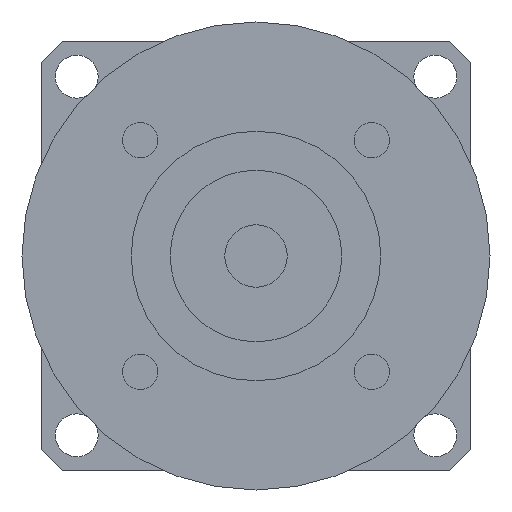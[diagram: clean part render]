
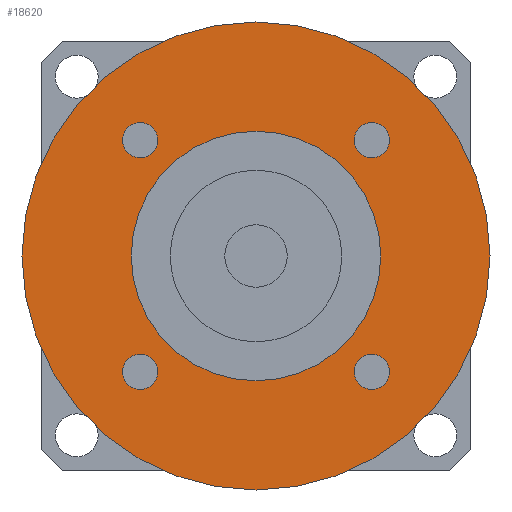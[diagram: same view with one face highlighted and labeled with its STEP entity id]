
A CAD part, left-side view. The second image highlights one B-rep face of the part: STEP entity #18620.
In plain terms, the highlighted planar face has unit normal (-1, 0, 0) as drawn and (0, 0, -1) by its records, which use the part's own axes.
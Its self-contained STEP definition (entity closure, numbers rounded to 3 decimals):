
#11050=CARTESIAN_POINT('',(0.,0.,
-58.));
#11060=DIRECTION('',(0.,0.,1.));
#11070=DIRECTION('',(0.,-1.,0.));
#11080=AXIS2_PLACEMENT_3D('',#11050,#11060,#11070);
#11090=CIRCLE('',#11080,16.);
#11100=CARTESIAN_POINT('',(0.,-16.,-58.));
#11110=VERTEX_POINT('',#11100);
#11120=CARTESIAN_POINT('',(16.,0.,-58.));
#11130=VERTEX_POINT('',#11120);
#11140=EDGE_CURVE('',#11110,#11130,#11090,.T.);
#11370=CARTESIAN_POINT('',(-16.,0.,-58.));
#11380=VERTEX_POINT('',#11370);
#11410=EDGE_CURVE('',#11380,#11110,#11090,.T.);
#12740=CARTESIAN_POINT('',(-12.599,-14.849,-58.));
#12750=VERTEX_POINT('',#12740);
#12930=CARTESIAN_POINT('',(-17.099,-14.849,-58.));
#12940=VERTEX_POINT('',#12930);
#12970=CARTESIAN_POINT('',(-14.849,-14.849,-58.));
#12980=DIRECTION('',(0.,0.,-1.));
#12990=DIRECTION('',(0.,-1.,0.));
#13000=AXIS2_PLACEMENT_3D('',#12970,#12980,#12990);
#13010=CIRCLE('',#13000,2.25);
#13020=CARTESIAN_POINT('',(-14.849,-17.099,-58.));
#13030=VERTEX_POINT('',#13020);
#13040=EDGE_CURVE('',#13030,#12940,#13010,.T.);
#13060=EDGE_CURVE('',#12750,#13030,#13010,.T.);
#17550=CARTESIAN_POINT('',(30.,0.,-58.));
#17560=VERTEX_POINT('',#17550);
#17590=CARTESIAN_POINT('',(0.,0.,
-58.));
#17600=DIRECTION('',(0.,0.,1.));
#17610=DIRECTION('',(0.,-1.,0.));
#17620=AXIS2_PLACEMENT_3D('',#17590,#17600,#17610);
#17630=CIRCLE('',#17620,30.);
#17640=CARTESIAN_POINT('',(0.,-30.,-58.));
#17650=VERTEX_POINT('',#17640);
#17660=EDGE_CURVE('',#17650,#17560,#17630,.T.);
#17680=CARTESIAN_POINT('',(-30.,0.,-58.));
#17690=VERTEX_POINT('',#17680);
#17700=EDGE_CURVE('',#17690,#17650,#17630,.T.);
#17820=CARTESIAN_POINT('',(0.,0.,
-58.));
#17830=DIRECTION('',(0.,0.,1.));
#17840=DIRECTION('',(-1.,0.,0.));
#17850=AXIS2_PLACEMENT_3D('',#17820,#17830,#17840);
#17860=PLANE('',#17850);
#17870=CARTESIAN_POINT('',(14.849,-14.849,-58.));
#17880=DIRECTION('',(0.,0.,-1.));
#17890=DIRECTION('',(1.,0.,0.));
#17900=AXIS2_PLACEMENT_3D('',#17870,#17880,#17890);
#17910=CIRCLE('',#17900,2.25);
#17920=CARTESIAN_POINT('',(17.099,-14.849,-58.));
#17930=VERTEX_POINT('',#17920);
#17940=CARTESIAN_POINT('',(14.849,-17.099,-58.));
#17950=VERTEX_POINT('',#17940);
#17960=EDGE_CURVE('',#17930,#17950,#17910,.T.);
#17970=ORIENTED_EDGE('',*,*,#17960,.F.);
#17980=CARTESIAN_POINT('',(14.849,-12.599,-58.));
#17990=VERTEX_POINT('',#17980);
#18000=EDGE_CURVE('',#17950,#17990,#17910,.T.);
#18010=ORIENTED_EDGE('',*,*,#18000,.F.);
#18020=EDGE_CURVE('',#17990,#17930,#17910,.T.);
#18030=ORIENTED_EDGE('',*,*,#18020,.F.);
#18040=EDGE_LOOP('',(#18030,#18010,#17970));
#18050=FACE_BOUND('',#18040,.T.);
#18060=CARTESIAN_POINT('',(14.849,14.849,-58.));
#18070=DIRECTION('',(0.,0.,-1.));
#18080=DIRECTION('',(0.,1.,0.));
#18090=AXIS2_PLACEMENT_3D('',#18060,#18070,#18080);
#18100=CIRCLE('',#18090,2.25);
#18110=CARTESIAN_POINT('',(14.849,17.099,-58.));
#18120=VERTEX_POINT('',#18110);
#18130=CARTESIAN_POINT('',(17.099,14.849,-58.));
#18140=VERTEX_POINT('',#18130);
#18150=EDGE_CURVE('',#18120,#18140,#18100,.T.);
#18160=ORIENTED_EDGE('',*,*,#18150,.F.);
#18170=CARTESIAN_POINT('',(12.599,14.849,-58.));
#18180=VERTEX_POINT('',#18170);
#18190=EDGE_CURVE('',#18140,#18180,#18100,.T.);
#18200=ORIENTED_EDGE('',*,*,#18190,.F.);
#18210=EDGE_CURVE('',#18180,#18120,#18100,.T.);
#18220=ORIENTED_EDGE('',*,*,#18210,.F.);
#18230=EDGE_LOOP('',(#18220,#18200,#18160));
#18240=FACE_BOUND('',#18230,.T.);
#18250=CARTESIAN_POINT('',(-14.849,14.849,-58.));
#18260=DIRECTION('',(0.,0.,-1.));
#18270=DIRECTION('',(-1.,0.,0.));
#18280=AXIS2_PLACEMENT_3D('',#18250,#18260,#18270);
#18290=CIRCLE('',#18280,2.25);
#18300=CARTESIAN_POINT('',(-17.099,14.849,-58.));
#18310=VERTEX_POINT('',#18300);
#18320=CARTESIAN_POINT('',(-14.849,17.099,-58.));
#18330=VERTEX_POINT('',#18320);
#18340=EDGE_CURVE('',#18310,#18330,#18290,.T.);
#18350=ORIENTED_EDGE('',*,*,#18340,.F.);
#18360=CARTESIAN_POINT('',(-14.849,12.599,-58.));
#18370=VERTEX_POINT('',#18360);
#18380=EDGE_CURVE('',#18330,#18370,#18290,.T.);
#18390=ORIENTED_EDGE('',*,*,#18380,.F.);
#18400=EDGE_CURVE('',#18370,#18310,#18290,.T.);
#18410=ORIENTED_EDGE('',*,*,#18400,.F.);
#18420=EDGE_LOOP('',(#18410,#18390,#18350));
#18430=FACE_BOUND('',#18420,.T.);
#18440=ORIENTED_EDGE('',*,*,#13040,.F.);
#18450=EDGE_CURVE('',#12940,#12750,#13010,.T.);
#18460=ORIENTED_EDGE('',*,*,#18450,.F.);
#18470=ORIENTED_EDGE('',*,*,#13060,.F.);
#18480=EDGE_LOOP('',(#18470,#18460,#18440));
#18490=FACE_BOUND('',#18480,.T.);
#18500=ORIENTED_EDGE('',*,*,#17660,.F.);
#18510=EDGE_CURVE('',#17560,#17690,#17630,.T.);
#18520=ORIENTED_EDGE('',*,*,#18510,.F.);
#18530=ORIENTED_EDGE('',*,*,#17700,.F.);
#18540=EDGE_LOOP('',(#18530,#18520,#18500));
#18550=FACE_OUTER_BOUND('',#18540,.T.);
#18560=EDGE_CURVE('',#11130,#11380,#11090,.T.);
#18570=ORIENTED_EDGE('',*,*,#18560,.T.);
#18580=ORIENTED_EDGE('',*,*,#11140,.T.);
#18590=ORIENTED_EDGE('',*,*,#11410,.T.);
#18600=EDGE_LOOP('',(#18590,#18580,#18570));
#18610=FACE_BOUND('',#18600,.T.);
#18620=ADVANCED_FACE('',(#18050,#18240,#18430,#18490,#18550,#18610),
#17860,.F.);
